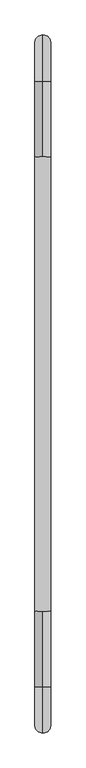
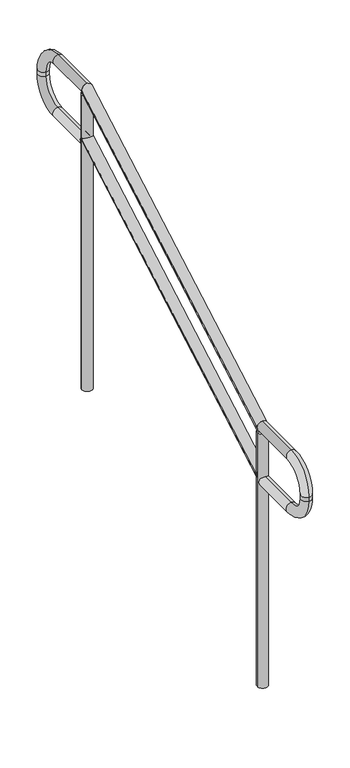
"""IFC4 building model written with IfcOpenShell, lengths in millimetres: railing geometry, Tubular com Fixação Tubular - 42mm com prolongamento."""

from ifc_helpers import new_model, si_unit, point, frame, frame_2d, origin, place, context, project, spatial, circle_curve, ellipse_curve, trimmed, segment, composite_curve, outline, extrude, source, transform, mapped, element, save
from ifc_brep_helpers import plane_surface, cylinder_surface, revolved_surface, advanced_brep


def railing_13fe46f1(model_context):
    return source(origin(), model_context, "Body", "SolidModel", [
        advanced_brep(
        [(4223.2201839, -4033.2411617, 1295.8626845), (4181.2201839, -4033.2411617, 1295.8626845), (4223.2201839, -2833.2411617, 1975.8626845), (4181.2201839, -2833.2411617, 1975.8626845)],
        [
            (0, 1, ellipse_curve(frame((4202.2201839, -4033.2411617, 1295.8626845), z_axis=(0.0, -1.0, 0.0), x_axis=(0.0, 0.0, -1.0)), 24.1373155, 21.0)),
            (1, 0, ellipse_curve(frame((4202.2201839, -4033.2411617, 1295.8626845), z_axis=(0.0, -1.0, 0.0), x_axis=(0.0, 0.0, -1.0)), 24.1373155, 21.0)),
            (2, 3, ellipse_curve(frame((4202.2201839, -2833.2411617, 1975.8626845), z_axis=(0.0, 1.0, 0.0), x_axis=(0.0, 0.0, -1.0)), 24.1373155, 21.0)),
            (3, 2, ellipse_curve(frame((4202.2201839, -2833.2411617, 1975.8626845), z_axis=(0.0, 1.0, 0.0), x_axis=(0.0, 0.0, -1.0)), 24.1373155, 21.0)),
            (0, 2),
            (3, 1),
        ],
        [
            plane_surface(frame((4202.2201839, -4033.2411617, 1320.0), z_axis=(0.0, -1.0, 0.0), x_axis=(0.0, 0.0, 1.0))),
            plane_surface(frame((4202.2201839, -2833.2411617, 2000.0), z_axis=(0.0, 1.0, 0.0), x_axis=(0.0, 0.0, 1.0))),
            cylinder_surface(frame((4202.2201839, -4022.8878977, 1301.7295341), z_axis=(0.0, -0.8700221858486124, -0.4930125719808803), x_axis=(-1.0, 0.0, 0.0)), 21.0),
        ],
        [
            (0, [[1, 2]]),
            (1, [[3, 4]]),
            (2, [[-1, 5, -4, 6]]),
            (2, [[-2, -6, -3, -5]]),
        ],
    ),
        advanced_brep(
        [(4223.2201839, -4033.2411617, 1095.8626845), (4181.2201839, -4033.2411617, 1095.8626845), (4223.2201839, -2833.2411617, 1775.8626845), (4181.2201839, -2833.2411617, 1775.8626845)],
        [
            (0, 1, ellipse_curve(frame((4202.2201839, -4033.2411617, 1095.8626845), z_axis=(0.0, -1.0, 0.0), x_axis=(0.0, 0.0, -1.0)), 24.1373155, 21.0)),
            (1, 0, ellipse_curve(frame((4202.2201839, -4033.2411617, 1095.8626845), z_axis=(0.0, -1.0, 0.0), x_axis=(0.0, 0.0, -1.0)), 24.1373155, 21.0)),
            (2, 3, ellipse_curve(frame((4202.2201839, -2833.2411617, 1775.8626845), z_axis=(0.0, 1.0, 0.0), x_axis=(0.0, 0.0, -1.0)), 24.1373155, 21.0)),
            (3, 2, ellipse_curve(frame((4202.2201839, -2833.2411617, 1775.8626845), z_axis=(0.0, 1.0, 0.0), x_axis=(0.0, 0.0, -1.0)), 24.1373155, 21.0)),
            (0, 2),
            (3, 1),
        ],
        [
            plane_surface(frame((4202.2201839, -4033.2411617, 1120.0), z_axis=(0.0, -1.0, 0.0), x_axis=(0.0, 0.0, 1.0))),
            plane_surface(frame((4202.2201839, -2833.2411617, 1800.0), z_axis=(0.0, 1.0, 0.0), x_axis=(0.0, 0.0, 1.0))),
            cylinder_surface(frame((4202.2201839, -4022.8878977, 1101.7295341), z_axis=(0.0, -0.8700221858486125, -0.4930125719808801), x_axis=(-1.0, 0.0, 0.0)), 21.0),
        ],
        [
            (0, [[1, 2]]),
            (1, [[3, 4]]),
            (2, [[-1, 5, -4, 6]]),
            (2, [[-2, -6, -3, -5]]),
        ],
    ),
        advanced_brep(
        [(4202.2201839, -2820.5411617, 1780.0), (4202.2201839, -2820.5411617, 1738.0), (4202.2201839, -2634.8411617, 1738.0), (4202.2201839, -2634.8411617, 1780.0), (4202.2201839, -2512.2411617, 1860.6), (4202.2201839, -2554.2411617, 1860.6), (4202.2201839, -2512.2411617, 1877.4), (4202.2201839, -2554.2411617, 1877.4), (4202.2201839, -2634.8411617, 2000.0), (4202.2201839, -2634.8411617, 1958.0), (4202.2201839, -2833.2411617, 1958.0), (4202.2201839, -2833.2411617, 2000.0)],
        [
            (0, 1, circle_curve(frame((4202.2201839, -2820.5411617, 1759.0), z_axis=(0.0, -1.0, 0.0), x_axis=(0.0, 0.0, -1.0)), 21.0)),
            (1, 0, circle_curve(frame((4202.2201839, -2820.5411617, 1759.0), z_axis=(0.0, -1.0, 0.0), x_axis=(0.0, 0.0, -1.0)), 21.0)),
            (1, 2),
            (2, 3, circle_curve(frame((4202.2201839, -2634.8411617, 1759.0), z_axis=(0.0, -1.0, 0.0), x_axis=(0.0, 0.0, -1.0)), 21.0)),
            (3, 0),
            (3, 2, circle_curve(frame((4202.2201839, -2634.8411617, 1759.0), z_axis=(0.0, -1.0, 0.0), x_axis=(0.0, 0.0, -1.0)), 21.0)),
            (4, 5, circle_curve(frame((4202.2201839, -2533.2411617, 1860.6), z_axis=(0.0, 0.0, -1.0), x_axis=(0.0, 1.0, 0.0)), 21.0)),
            (5, 3, circle_curve(frame((4202.2201839, -2634.8411617, 1860.6), z_axis=(-1.0, 0.0, 0.0), x_axis=(0.0, 0.0, -1.0)), 80.6)),
            (2, 4, circle_curve(frame((4202.2201839, -2634.8411617, 1860.6), z_axis=(1.0, 0.0, 0.0), x_axis=(0.0, 0.0, -1.0)), 122.6)),
            (5, 4, circle_curve(frame((4202.2201839, -2533.2411617, 1860.6), z_axis=(0.0, 0.0, -1.0), x_axis=(0.0, 1.0, 0.0)), 21.0)),
            (4, 6),
            (6, 7, circle_curve(frame((4202.2201839, -2533.2411617, 1877.4), z_axis=(0.0, 0.0, -1.0), x_axis=(0.0, 1.0, 0.0)), 21.0)),
            (7, 5),
            (7, 6, circle_curve(frame((4202.2201839, -2533.2411617, 1877.4), z_axis=(0.0, 0.0, -1.0), x_axis=(0.0, 1.0, 0.0)), 21.0)),
            (8, 9, circle_curve(frame((4202.2201839, -2634.8411617, 1979.0), z_axis=(0.0, 1.0, 0.0), x_axis=(0.0, 0.0, 1.0)), 21.0)),
            (9, 7, circle_curve(frame((4202.2201839, -2634.8411617, 1877.4), z_axis=(-1.0, 0.0, 0.0), x_axis=(0.0, 1.0, 0.0)), 80.6)),
            (6, 8, circle_curve(frame((4202.2201839, -2634.8411617, 1877.4), z_axis=(1.0, 0.0, 0.0), x_axis=(0.0, 1.0, 0.0)), 122.6)),
            (9, 8, circle_curve(frame((4202.2201839, -2634.8411617, 1979.0), z_axis=(0.0, 1.0, 0.0), x_axis=(0.0, 0.0, 1.0)), 21.0)),
            (10, 11, circle_curve(frame((4202.2201839, -2833.2411617, 1979.0), z_axis=(0.0, -1.0, 0.0), x_axis=(0.0, 0.0, 1.0)), 21.0)),
            (11, 10, circle_curve(frame((4202.2201839, -2833.2411617, 1979.0), z_axis=(0.0, -1.0, 0.0), x_axis=(0.0, 0.0, 1.0)), 21.0)),
            (8, 11),
            (10, 9),
        ],
        [
            plane_surface(frame((4181.2201839, -2820.5411617, 1759.0), z_axis=(0.0, -1.0, 0.0), x_axis=(0.0, 0.0, -1.0))),
            cylinder_surface(frame((4202.2201839, -2820.5411617, 1759.0), z_axis=(0.0, -1.0, 0.0), x_axis=(0.0, 0.0, -1.0)), 21.0),
            revolved_surface(trimmed(ellipse_curve(frame((4202.2201839, -2634.8411617, 1759.0), z_axis=(0.0, 1.0, 0.0), x_axis=(0.0, 0.0, -1.0)), 21.0, 21.0), [point((4202.2201839, -2634.8411617, 1780.0))], [point((4202.2201839, -2634.8411617, 1738.0))], True, "CARTESIAN"), (4202.2201839, -2634.8411617, 1860.6), (-1.0, 0.0, 0.0)),
            revolved_surface(trimmed(ellipse_curve(frame((4202.2201839, -2634.8411617, 1759.0), z_axis=(0.0, 1.0, 0.0), x_axis=(0.0, 0.0, -1.0)), 21.0, 21.0), [point((4202.2201839, -2634.8411617, 1738.0))], [point((4202.2201839, -2634.8411617, 1780.0))], True, "CARTESIAN"), (4202.2201839, -2634.8411617, 1860.6), (-1.0, 0.0, 0.0)),
            cylinder_surface(frame((4202.2201839, -2533.2411617, 1860.6), z_axis=(0.0, 0.0, -1.0), x_axis=(0.0, 1.0, 0.0)), 21.0),
            revolved_surface(trimmed(ellipse_curve(frame((4202.2201839, -2533.2411617, 1877.4), z_axis=(0.0, 0.0, 1.0), x_axis=(0.0, 1.0, 0.0)), 21.0, 21.0), [point((4202.2201839, -2554.2411617, 1877.4))], [point((4202.2201839, -2512.2411617, 1877.4))], True, "CARTESIAN"), (4202.2201839, -2634.8411617, 1877.4), (-1.0, 0.0, 0.0)),
            revolved_surface(trimmed(ellipse_curve(frame((4202.2201839, -2533.2411617, 1877.4), z_axis=(0.0, 0.0, 1.0), x_axis=(0.0, 1.0, 0.0)), 21.0, 21.0), [point((4202.2201839, -2512.2411617, 1877.4))], [point((4202.2201839, -2554.2411617, 1877.4))], True, "CARTESIAN"), (4202.2201839, -2634.8411617, 1877.4), (-1.0, 0.0, 0.0)),
            plane_surface(frame((4181.2201839, -2833.2411617, 1979.0), z_axis=(0.0, -1.0, 0.0), x_axis=(0.0, 0.0, 1.0))),
            cylinder_surface(frame((4202.2201839, -2634.8411617, 1979.0), z_axis=(0.0, 1.0, 0.0), x_axis=(0.0, 0.0, 1.0)), 21.0),
        ],
        [
            (0, [[1, 2]]),
            (1, [[3, 4, 5, -2]]),
            (1, [[-5, 6, -3, -1]]),
            (2, [[7, 8, -4, 9]]),
            (3, [[10, -9, -6, -8]]),
            (4, [[11, 12, 13, -7]]),
            (4, [[-13, 14, -11, -10]]),
            (5, [[15, 16, -12, 17]]),
            (6, [[18, -17, -14, -16]]),
            (7, [[19, 20]]),
            (8, [[21, -19, 22, -15]]),
            (8, [[-22, -20, -21, -18]]),
        ],
    ),
        extrude(outline(composite_curve([segment(trimmed(circle_curve(frame_2d((4202.2201839, -2833.2411617)), 21.0), [point((4181.2201839, -2833.2411617))], [point((4223.2201839, -2833.2411617))], False, "CARTESIAN"), True, "CONTINUOUS"), segment(trimmed(circle_curve(frame_2d((4202.2201839, -2833.2411617)), 21.0), [point((4223.2201839, -2833.2411617))], [point((4181.2201839, -2833.2411617))], False, "CARTESIAN"), True, "CONTINUOUS")], self_intersect=False)), frame((0.0, 0.0, 730.0), z_axis=(0.0, 0.0, 1.0), x_axis=(1.0, 0.0, 0.0)), (0.0, 0.0, 1.0), 1228.0),
        advanced_brep(
        [(4202.2201839, -4033.2411617, 1278.0), (4202.2201839, -4033.2411617, 1320.0), (4202.2201839, -4231.6411617, 1320.0), (4202.2201839, -4231.6411617, 1278.0), (4202.2201839, -4354.2411617, 1197.4), (4202.2201839, -4312.2411617, 1197.4), (4202.2201839, -4354.2411617, 1180.6), (4202.2201839, -4312.2411617, 1180.6), (4202.2201839, -4231.6411617, 1058.0), (4202.2201839, -4231.6411617, 1100.0), (4202.2201839, -4045.9411617, 1100.0), (4202.2201839, -4045.9411617, 1058.0)],
        [
            (0, 1, circle_curve(frame((4202.2201839, -4033.2411617, 1299.0), z_axis=(0.0, 1.0, 0.0), x_axis=(0.0, 0.0, 1.0)), 21.0)),
            (1, 0, circle_curve(frame((4202.2201839, -4033.2411617, 1299.0), z_axis=(0.0, 1.0, 0.0), x_axis=(0.0, 0.0, 1.0)), 21.0)),
            (1, 2),
            (2, 3, circle_curve(frame((4202.2201839, -4231.6411617, 1299.0), z_axis=(0.0, 1.0, 0.0), x_axis=(0.0, 0.0, 1.0)), 21.0)),
            (3, 0),
            (3, 2, circle_curve(frame((4202.2201839, -4231.6411617, 1299.0), z_axis=(0.0, 1.0, 0.0), x_axis=(0.0, 0.0, 1.0)), 21.0)),
            (4, 5, circle_curve(frame((4202.2201839, -4333.2411617, 1197.4), z_axis=(0.0, 0.0, 1.0), x_axis=(0.0, -1.0, 0.0)), 21.0)),
            (5, 3, circle_curve(frame((4202.2201839, -4231.6411617, 1197.4), z_axis=(-1.0, 0.0, 0.0), x_axis=(0.0, 0.0, 1.0)), 80.6)),
            (2, 4, circle_curve(frame((4202.2201839, -4231.6411617, 1197.4), z_axis=(1.0, 0.0, 0.0), x_axis=(0.0, 0.0, 1.0)), 122.6)),
            (5, 4, circle_curve(frame((4202.2201839, -4333.2411617, 1197.4), z_axis=(0.0, 0.0, 1.0), x_axis=(0.0, -1.0, 0.0)), 21.0)),
            (4, 6),
            (6, 7, circle_curve(frame((4202.2201839, -4333.2411617, 1180.6), z_axis=(0.0, 0.0, 1.0), x_axis=(0.0, -1.0, 0.0)), 21.0)),
            (7, 5),
            (7, 6, circle_curve(frame((4202.2201839, -4333.2411617, 1180.6), z_axis=(0.0, 0.0, 1.0), x_axis=(0.0, -1.0, 0.0)), 21.0)),
            (8, 9, circle_curve(frame((4202.2201839, -4231.6411617, 1079.0), z_axis=(0.0, -1.0, 0.0), x_axis=(0.0, 0.0, -1.0)), 21.0)),
            (9, 7, circle_curve(frame((4202.2201839, -4231.6411617, 1180.6), z_axis=(-1.0, 0.0, 0.0), x_axis=(0.0, -1.0, 0.0)), 80.6)),
            (6, 8, circle_curve(frame((4202.2201839, -4231.6411617, 1180.6), z_axis=(1.0, 0.0, 0.0), x_axis=(0.0, -1.0, 0.0)), 122.6)),
            (9, 8, circle_curve(frame((4202.2201839, -4231.6411617, 1079.0), z_axis=(0.0, -1.0, 0.0), x_axis=(0.0, 0.0, -1.0)), 21.0)),
            (10, 11, circle_curve(frame((4202.2201839, -4045.9411617, 1079.0), z_axis=(0.0, 1.0, 0.0), x_axis=(0.0, 0.0, -1.0)), 21.0)),
            (11, 10, circle_curve(frame((4202.2201839, -4045.9411617, 1079.0), z_axis=(0.0, 1.0, 0.0), x_axis=(0.0, 0.0, -1.0)), 21.0)),
            (8, 11),
            (10, 9),
        ],
        [
            plane_surface(frame((4181.2201839, -4033.2411617, 1299.0), z_axis=(0.0, 1.0, 0.0), x_axis=(0.0, 0.0, 1.0))),
            cylinder_surface(frame((4202.2201839, -4033.2411617, 1299.0), z_axis=(0.0, 1.0, 0.0), x_axis=(0.0, 0.0, 1.0)), 21.0),
            revolved_surface(trimmed(ellipse_curve(frame((4202.2201839, -4231.6411617, 1299.0), z_axis=(0.0, -1.0, 0.0), x_axis=(0.0, 0.0, 1.0)), 21.0, 21.0), [point((4202.2201839, -4231.6411617, 1278.0))], [point((4202.2201839, -4231.6411617, 1320.0))], True, "CARTESIAN"), (4202.2201839, -4231.6411617, 1197.4), (-1.0, 0.0, 0.0)),
            revolved_surface(trimmed(ellipse_curve(frame((4202.2201839, -4231.6411617, 1299.0), z_axis=(0.0, -1.0, 0.0), x_axis=(0.0, 0.0, 1.0)), 21.0, 21.0), [point((4202.2201839, -4231.6411617, 1320.0))], [point((4202.2201839, -4231.6411617, 1278.0))], True, "CARTESIAN"), (4202.2201839, -4231.6411617, 1197.4), (-1.0, 0.0, 0.0)),
            cylinder_surface(frame((4202.2201839, -4333.2411617, 1197.4), z_axis=(0.0, 0.0, 1.0), x_axis=(0.0, -1.0, 0.0)), 21.0),
            revolved_surface(trimmed(ellipse_curve(frame((4202.2201839, -4333.2411617, 1180.6), z_axis=(0.0, 0.0, -1.0), x_axis=(0.0, -1.0, 0.0)), 21.0, 21.0), [point((4202.2201839, -4312.2411617, 1180.6))], [point((4202.2201839, -4354.2411617, 1180.6))], True, "CARTESIAN"), (4202.2201839, -4231.6411617, 1180.6), (-1.0, 0.0, 0.0)),
            revolved_surface(trimmed(ellipse_curve(frame((4202.2201839, -4333.2411617, 1180.6), z_axis=(0.0, 0.0, -1.0), x_axis=(0.0, -1.0, 0.0)), 21.0, 21.0), [point((4202.2201839, -4354.2411617, 1180.6))], [point((4202.2201839, -4312.2411617, 1180.6))], True, "CARTESIAN"), (4202.2201839, -4231.6411617, 1180.6), (-1.0, 0.0, 0.0)),
            plane_surface(frame((4181.2201839, -4045.9411617, 1079.0), z_axis=(0.0, 1.0, 0.0), x_axis=(0.0, 0.0, -1.0))),
            cylinder_surface(frame((4202.2201839, -4231.6411617, 1079.0), z_axis=(0.0, -1.0, 0.0), x_axis=(0.0, 0.0, -1.0)), 21.0),
        ],
        [
            (0, [[1, 2]]),
            (1, [[3, 4, 5, -2]]),
            (1, [[-5, 6, -3, -1]]),
            (2, [[7, 8, -4, 9]]),
            (3, [[10, -9, -6, -8]]),
            (4, [[11, 12, 13, -7]]),
            (4, [[-13, 14, -11, -10]]),
            (5, [[15, 16, -12, 17]]),
            (6, [[18, -17, -14, -16]]),
            (7, [[19, 20]]),
            (8, [[21, -19, 22, -15]]),
            (8, [[-22, -20, -21, -18]]),
        ],
    ),
        extrude(outline(composite_curve([segment(trimmed(circle_curve(frame_2d((4202.2201839, -4033.2411617)), 21.0), [point((4181.2201839, -4033.2411617))], [point((4223.2201839, -4033.2411617))], False, "CARTESIAN"), True, "CONTINUOUS"), segment(trimmed(circle_curve(frame_2d((4202.2201839, -4033.2411617)), 21.0), [point((4223.2201839, -4033.2411617))], [point((4181.2201839, -4033.2411617))], False, "CARTESIAN"), True, "CONTINUOUS")], self_intersect=False)), frame((0.0, 0.0, 220.0), z_axis=(0.0, 0.0, 1.0), x_axis=(1.0, 0.0, 0.0)), (0.0, 0.0, 1.0), 1058.0),
    ])


if __name__ == "__main__":
    model = new_model("IFC4")
    model_context = context("Model", 3, world=origin())
    ifc_project = project(units=[si_unit("LENGTHUNIT", "METRE", prefix="MILLI")], contexts=[model_context])
    site = spatial("IfcSite", under=ifc_project)
    building = spatial("IfcBuilding", under=site)
    placement = place(None, origin())
    railing_shape = railing_13fe46f1(model_context)
    element("IfcRailing", 1, ObjectType="Tubular com Fixação Tubular - 42mm com prolongamento", at=placement, inside=building, context=model_context, shape_type="MappedRepresentation", body=[
        mapped(railing_shape, transform((0.0, 0.0, 0.0), x_axis=(1.0, 0.0, 0.0), y_axis=(0.0, 1.0, 0.0), z_axis=(0.0, 0.0, 1.0))),
    ])
    save(model, "model.ifc")
